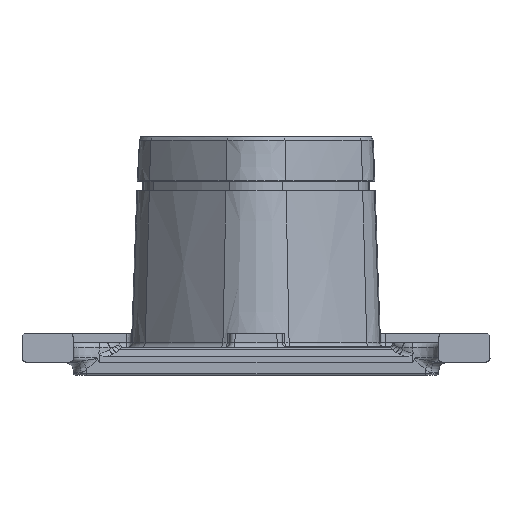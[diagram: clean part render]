
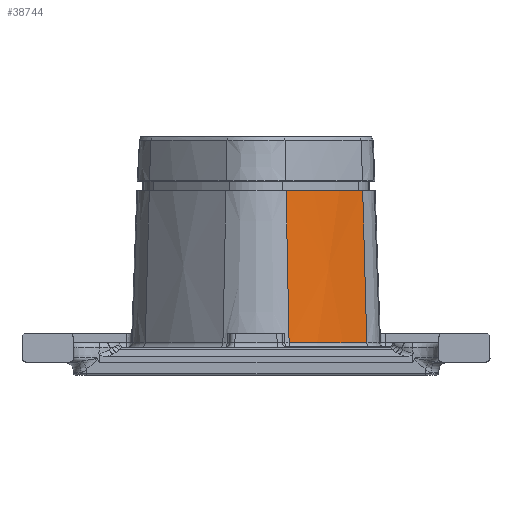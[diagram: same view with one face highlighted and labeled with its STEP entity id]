
A CAD part, left-side view. The second image highlights one B-rep face of the part: STEP entity #38744.
In plain terms, the highlighted conical face has half-angle 2 degrees and reference radius 150 mm.
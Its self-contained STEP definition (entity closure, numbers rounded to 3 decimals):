
#32094=AXIS2_PLACEMENT_3D('Circle Axis2P3D',#32092,#32093,$) ;
#38724=AXIS2_PLACEMENT_3D('Cone Axis2P3D',#38721,#38722,#38723) ;
#38728=AXIS2_PLACEMENT_3D('Circle Axis2P3D',#38726,#38727,$) ;
#32072=CARTESIAN_POINT('Vertex',(-56.211,-42.583,-14.07)) ;
#32092=CARTESIAN_POINT('Axis2P3D Location',(40.184,75.,-14.07)) ;
#32096=CARTESIAN_POINT('Vertex',(-84.007,-12.718,-14.07)) ;
#38706=CARTESIAN_POINT('Vertex',(-54.918,-41.007,44.307)) ;
#38709=CARTESIAN_POINT('Line Origine',(-55.584,-41.819,14.25)) ;
#38721=CARTESIAN_POINT('Axis2P3D Location',(40.184,75.,44.5)) ;
#38726=CARTESIAN_POINT('Axis2P3D Location',(40.184,75.,44.307)) ;
#38730=CARTESIAN_POINT('Vertex',(-82.341,-11.542,44.307)) ;
#38733=CARTESIAN_POINT('Line Origine',(-83.199,-12.148,14.25)) ;
#32093=DIRECTION('Axis2P3D Direction',(0.,-0.,1.)) ;
#38710=DIRECTION('Vector Direction',(-0.022,-0.027,-0.999)) ;
#38722=DIRECTION('Axis2P3D Direction',(-0.,-0.,-1.)) ;
#38723=DIRECTION('Axis2P3D XDirection',(-0.817,-0.577,0.)) ;
#38727=DIRECTION('Axis2P3D Direction',(0.,0.,1.)) ;
#38734=DIRECTION('Vector Direction',(-0.029,-0.02,-0.999)) ;
#38711=VECTOR('Line Direction',#38710,1.) ;
#38735=VECTOR('Line Direction',#38734,1.) ;
#38739=ORIENTED_EDGE('',*,*,#32098,.T.) ;
#38740=ORIENTED_EDGE('',*,*,#38713,.T.) ;
#38741=ORIENTED_EDGE('',*,*,#38732,.F.) ;
#38742=ORIENTED_EDGE('',*,*,#38737,.F.) ;
#38744=ADVANCED_FACE('Hold frame . surface acc.draw 140x MET - PLK BG-C.1\\Adapter komplett',(#38743),#38725,.T.) ;
#32095=CIRCLE('generated circle',#32094,152.045) ;
#38729=CIRCLE('generated circle',#38728,150.007) ;
#38725=CONICAL_SURFACE('Cone',#38724,150.,0.035) ;
#32098=EDGE_CURVE('',#32097,#32073,#32095,.T.) ;
#38713=EDGE_CURVE('',#32073,#38707,#38712,.F.) ;
#38732=EDGE_CURVE('',#38731,#38707,#38729,.T.) ;
#38737=EDGE_CURVE('',#32097,#38731,#38736,.F.) ;
#38738=EDGE_LOOP('',(#38739,#38740,#38741,#38742)) ;
#38743=FACE_OUTER_BOUND('',#38738,.T.) ;
#38712=LINE('Line',#38709,#38711) ;
#38736=LINE('Line',#38733,#38735) ;
#32073=VERTEX_POINT('',#32072) ;
#32097=VERTEX_POINT('',#32096) ;
#38707=VERTEX_POINT('',#38706) ;
#38731=VERTEX_POINT('',#38730) ;
